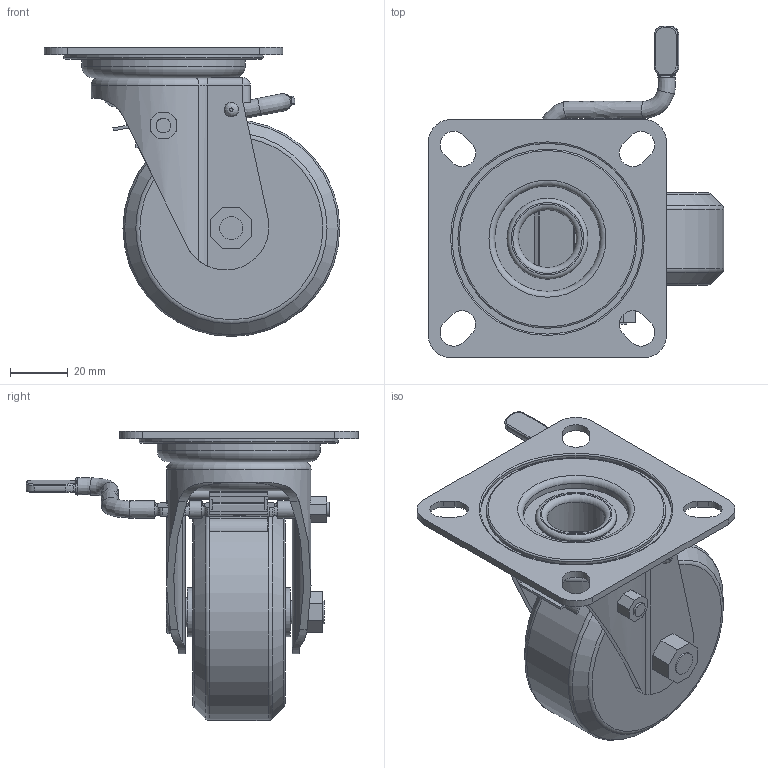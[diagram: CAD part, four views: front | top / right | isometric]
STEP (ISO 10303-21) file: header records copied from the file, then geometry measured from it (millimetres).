
FILE_DESCRIPTION(/* description */ (''),/* implementation_level */ '2;1');
FILE_NAME(/* name */ '25A02_3_F.stp',/* time_stamp */ '2023-03-24T10:32:28+08:00',/* author */ (''),/* organization */ (''),/* preprocessor_version */ 'ST-DEVELOPER v14',/* originating_system */ 'SIEMENS PLM Software NX 8.0',/* authorisation */ '');
FILE_SCHEMA (('AUTOMOTIVE_DESIGN { 1 0 10303 214 3 1 1 1 }'));
Length unit declared in the file: millimetre
Products named in the file (1): 25A02_3_F
Bounding box: 102.25 x 114.85 x 100 mm (x, y, z)
Volume: 189359.6 mm3; surface area: 60832.7 mm2
Topology: 1 solids, 10 shells, 617 faces, 1576 edges, 1006 vertices
Faces by surface type: plane 344, cylinder 156, torus 51, bspline 45, sphere 15, cone 4, revolution 2
Full cylindrical faces by diameter (mm): 4 x1, 4.1 x2, 5 x2, 5.1 x1, 6 x2, 6.5 x1, 8 x2, 8.3 x1, 10 x2, 15 x1, 17 x2, 23 x1, 28 x2, 32 x1, 32.2 x1, 36 x1, 36.5 x1, 42.5 x1, 52.5 x1, 56.5 x1, 58 x1, 62 x1, 66 x1, 69 x1, 75 x1
Entity records: 20278 total; most frequent: CARTESIAN_POINT 6430, ORIENTED_EDGE 2954, DIRECTION 2605, EDGE_CURVE 1477, VERTEX_POINT 982, AXIS2_PLACEMENT_3D 968, EDGE_LOOP 747, LINE 667
